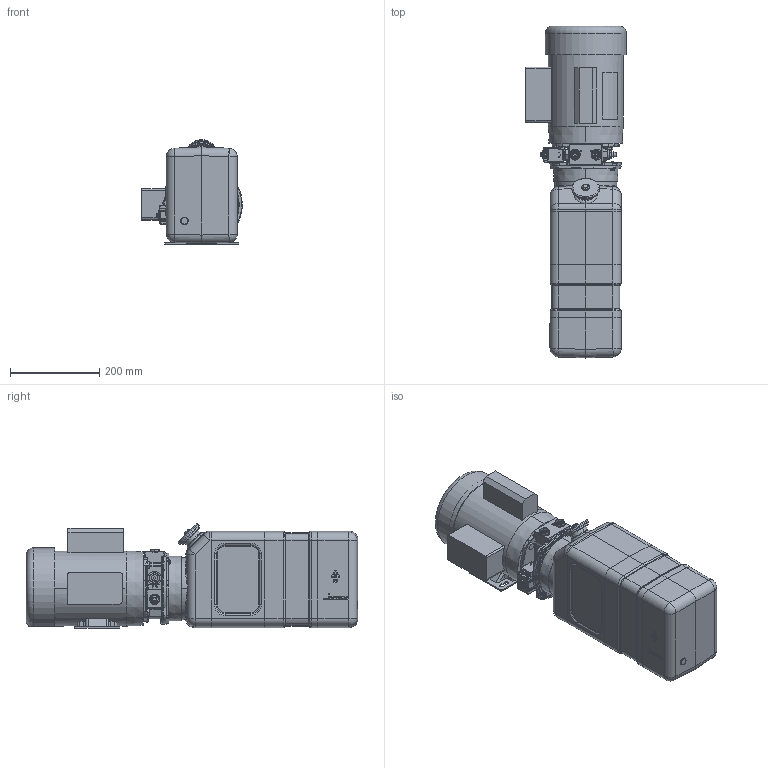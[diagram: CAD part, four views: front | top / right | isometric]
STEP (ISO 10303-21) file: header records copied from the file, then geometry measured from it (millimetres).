
FILE_DESCRIPTION((''),'2;1');
FILE_NAME('645637_SW0001','2015-09-01T',('GB10196'),('OILDYNE'),'PRO/ENGINEER BY PARAMETRIC TECHNOLOGY CORPORATION, 2009300','PRO/ENGINEER BY PARAMETRIC TECHNOLOGY CORPORATION, 2009300','');
FILE_SCHEMA(('CONFIG_CONTROL_DESIGN'));
Products named in the file (1): 645637_SW0001
Bounding box: 225.67 x 743.92 x 234.12 mm (x, y, z)
Surface area: 1059622.5 mm2 (no closed solid volume)
Topology: 0 solids, 85 shells, 1745 faces, 5514 edges, 3739 vertices
Faces by surface type: cylinder 551, plane 483, bspline 230, cone 214, torus 169, sphere 98
Entity records: 72747 total; most frequent: CARTESIAN_POINT 26436, DIRECTION 9524, ORIENTED_EDGE 8932, EDGE_CURVE 5507, VERTEX_POINT 3739, AXIS2_PLACEMENT_3D 3575, VECTOR 2374, LINE 2374
